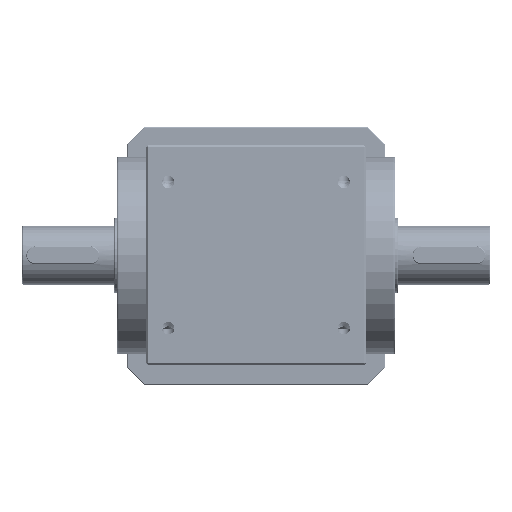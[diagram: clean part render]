
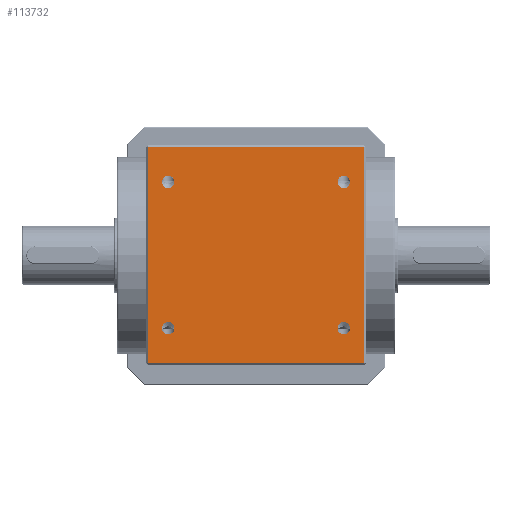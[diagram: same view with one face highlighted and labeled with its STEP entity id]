
A CAD part, top view. The second image highlights one B-rep face of the part: STEP entity #113732.
In plain terms, the highlighted planar face has unit normal (0, 0, 1) as drawn and (0, 1, 0) by its records, which use the part's own axes.
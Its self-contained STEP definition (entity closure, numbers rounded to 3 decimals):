
#1501 = VERTEX_POINT ( 'NONE', #2377 ) ;
#2255 = CARTESIAN_POINT ( 'NONE',  ( -74., 75., -74. ) ) ;
#2377 = CARTESIAN_POINT ( 'NONE',  ( -60., 75., 45.75 ) ) ;
#3775 = CARTESIAN_POINT ( 'NONE',  ( 60., 75., 50. ) ) ;
#5057 = DIRECTION ( 'NONE',  ( 0., 0., 1. ) ) ;
#6084 = ORIENTED_EDGE ( 'NONE', *, *, #39940, .T. ) ;
#8052 = DIRECTION ( 'NONE',  ( 0., 1., 0. ) ) ;
#8500 = FACE_BOUND ( 'NONE', #34763, .T. ) ;
#9700 = FACE_BOUND ( 'NONE', #25935, .T. ) ;
#9795 = CIRCLE ( 'NONE', #33399, 4.25 ) ;
#11109 = ORIENTED_EDGE ( 'NONE', *, *, #131161, .F. ) ;
#14368 = ORIENTED_EDGE ( 'NONE', *, *, #50239, .F. ) ;
#15268 = DIRECTION ( 'NONE',  ( 0., 0., 1. ) ) ;
#17105 = VERTEX_POINT ( 'NONE', #77557 ) ;
#19050 = ORIENTED_EDGE ( 'NONE', *, *, #94862, .F. ) ;
#19679 = EDGE_CURVE ( 'NONE', #142303, #120633, #43087, .T. ) ;
#21796 = CARTESIAN_POINT ( 'NONE',  ( -75., 75., 75. ) ) ;
#25056 = DIRECTION ( 'NONE',  ( 0., 1., 0. ) ) ;
#25935 = EDGE_LOOP ( 'NONE', ( #68374, #63162 ) ) ;
#26260 = CARTESIAN_POINT ( 'NONE',  ( -60., 75., -54.25 ) ) ;
#26759 = LINE ( 'NONE', #117785, #27879 ) ;
#26783 = AXIS2_PLACEMENT_3D ( 'NONE', #120196, #51986, #131593 ) ;
#27879 = VECTOR ( 'NONE', #140049, 1000. ) ;
#28794 = CARTESIAN_POINT ( 'NONE',  ( -74., 75., 75. ) ) ;
#30606 = DIRECTION ( 'NONE',  ( 0., 0., 1. ) ) ;
#31361 = VERTEX_POINT ( 'NONE', #53534 ) ;
#31421 = VERTEX_POINT ( 'NONE', #48814 ) ;
#32365 = EDGE_CURVE ( 'NONE', #120633, #142303, #110397, .T. ) ;
#32884 = VERTEX_POINT ( 'NONE', #81763 ) ;
#33346 = DIRECTION ( 'NONE',  ( 0., 0., -1. ) ) ;
#33399 = AXIS2_PLACEMENT_3D ( 'NONE', #76577, #8052, #88045 ) ;
#34763 = EDGE_LOOP ( 'NONE', ( #145078, #63939 ) ) ;
#35171 = DIRECTION ( 'NONE',  ( 0., 1., 0. ) ) ;
#35538 = AXIS2_PLACEMENT_3D ( 'NONE', #3775, #83758, #15268 ) ;
#37866 = CARTESIAN_POINT ( 'NONE',  ( -60., 75., 54.25 ) ) ;
#39940 = EDGE_CURVE ( 'NONE', #31421, #32884, #26759, .T. ) ;
#40318 = DIRECTION ( 'NONE',  ( 0., 0., -1. ) ) ;
#40502 = CIRCLE ( 'NONE', #74778, 4.25 ) ;
#43087 = CIRCLE ( 'NONE', #113484, 4.25 ) ;
#48814 = CARTESIAN_POINT ( 'NONE',  ( -74., 75., 74. ) ) ;
#50239 = EDGE_CURVE ( 'NONE', #1501, #84170, #40502, .T. ) ;
#51614 = EDGE_CURVE ( 'NONE', #147520, #17105, #140746, .T. ) ;
#51936 = VERTEX_POINT ( 'NONE', #127990 ) ;
#51986 = DIRECTION ( 'NONE',  ( 0., 1., 0. ) ) ;
#53534 = CARTESIAN_POINT ( 'NONE',  ( 60., 75., 45.75 ) ) ;
#54873 = FACE_BOUND ( 'NONE', #144639, .T. ) ;
#55228 = AXIS2_PLACEMENT_3D ( 'NONE', #21796, #101709, #33346 ) ;
#58579 = CIRCLE ( 'NONE', #85446, 4.25 ) ;
#61818 = FACE_OUTER_BOUND ( 'NONE', #89624, .T. ) ;
#62496 = CARTESIAN_POINT ( 'NONE',  ( -75., 75., -74. ) ) ;
#63162 = ORIENTED_EDGE ( 'NONE', *, *, #51614, .F. ) ;
#63939 = ORIENTED_EDGE ( 'NONE', *, *, #142053, .F. ) ;
#66426 = LINE ( 'NONE', #28794, #123256 ) ;
#67152 = EDGE_CURVE ( 'NONE', #51936, #32884, #84389, .T. ) ;
#67821 = CARTESIAN_POINT ( 'NONE',  ( 60., 75., -54.25 ) ) ;
#68374 = ORIENTED_EDGE ( 'NONE', *, *, #107401, .F. ) ;
#70330 = VERTEX_POINT ( 'NONE', #2255 ) ;
#73568 = DIRECTION ( 'NONE',  ( 0., 1., 0. ) ) ;
#73962 = DIRECTION ( 'NONE',  ( 1., 0., 0. ) ) ;
#74778 = AXIS2_PLACEMENT_3D ( 'NONE', #103515, #35171, #114928 ) ;
#76577 = CARTESIAN_POINT ( 'NONE',  ( -60., 75., 50. ) ) ;
#77557 = CARTESIAN_POINT ( 'NONE',  ( 60., 75., -45.75 ) ) ;
#78403 = CIRCLE ( 'NONE', #35538, 4.25 ) ;
#81763 = CARTESIAN_POINT ( 'NONE',  ( 74., 75., 74. ) ) ;
#83383 = VECTOR ( 'NONE', #30606, 1000. ) ;
#83758 = DIRECTION ( 'NONE',  ( 0., 1., 0. ) ) ;
#84170 = VERTEX_POINT ( 'NONE', #37866 ) ;
#84389 = LINE ( 'NONE', #87563, #83383 ) ;
#85446 = AXIS2_PLACEMENT_3D ( 'NONE', #93530, #25056, #104950 ) ;
#85905 = ORIENTED_EDGE ( 'NONE', *, *, #95836, .F. ) ;
#87563 = CARTESIAN_POINT ( 'NONE',  ( 74., 75., 75. ) ) ;
#88045 = DIRECTION ( 'NONE',  ( 0., 0., 1. ) ) ;
#88682 = CARTESIAN_POINT ( 'NONE',  ( -60., 75., -45.75 ) ) ;
#89624 = EDGE_LOOP ( 'NONE', ( #11109, #6084, #132573, #85905 ) ) ;
#93530 = CARTESIAN_POINT ( 'NONE',  ( 60., 75., -50. ) ) ;
#94862 = EDGE_CURVE ( 'NONE', #84170, #1501, #9795, .T. ) ;
#95836 = EDGE_CURVE ( 'NONE', #70330, #51936, #122236, .T. ) ;
#101207 = EDGE_LOOP ( 'NONE', ( #19050, #14368 ) ) ;
#101709 = DIRECTION ( 'NONE',  ( 0., -1., 0. ) ) ;
#103260 = AXIS2_PLACEMENT_3D ( 'NONE', #137072, #136875, #136759 ) ;
#103515 = CARTESIAN_POINT ( 'NONE',  ( -60., 75., 50. ) ) ;
#104950 = DIRECTION ( 'NONE',  ( 0., 0., 1. ) ) ;
#104994 = FACE_BOUND ( 'NONE', #101207, .T. ) ;
#107401 = EDGE_CURVE ( 'NONE', #17105, #147520, #58579, .T. ) ;
#110311 = ORIENTED_EDGE ( 'NONE', *, *, #32365, .F. ) ;
#110397 = CIRCLE ( 'NONE', #103260, 4.25 ) ;
#110456 = CARTESIAN_POINT ( 'NONE',  ( 60., 75., 54.25 ) ) ;
#112646 = PLANE ( 'NONE',  #55228 ) ;
#113484 = AXIS2_PLACEMENT_3D ( 'NONE', #144258, #144086, #143955 ) ;
#113732 = ADVANCED_FACE ( 'NONE', ( #61818, #54873, #9700, #104994, #8500 ), #112646, .F. ) ;
#114928 = DIRECTION ( 'NONE',  ( 0., 0., 1. ) ) ;
#117785 = CARTESIAN_POINT ( 'NONE',  ( 0., 75., 74. ) ) ;
#120196 = CARTESIAN_POINT ( 'NONE',  ( 60., 75., -50. ) ) ;
#120633 = VERTEX_POINT ( 'NONE', #26260 ) ;
#122236 = LINE ( 'NONE', #62496, #125681 ) ;
#122489 = ORIENTED_EDGE ( 'NONE', *, *, #19679, .F. ) ;
#123256 = VECTOR ( 'NONE', #40318, 1000. ) ;
#125681 = VECTOR ( 'NONE', #73962, 1000. ) ;
#127990 = CARTESIAN_POINT ( 'NONE',  ( 74., 75., -74. ) ) ;
#131161 = EDGE_CURVE ( 'NONE', #31421, #70330, #66426, .T. ) ;
#131593 = DIRECTION ( 'NONE',  ( 0., 0., 1. ) ) ;
#132573 = ORIENTED_EDGE ( 'NONE', *, *, #67152, .F. ) ;
#135818 = EDGE_CURVE ( 'NONE', #144791, #31361, #141130, .T. ) ;
#136759 = DIRECTION ( 'NONE',  ( 0., 0., 1. ) ) ;
#136875 = DIRECTION ( 'NONE',  ( 0., 1., 0. ) ) ;
#137072 = CARTESIAN_POINT ( 'NONE',  ( -60., 75., -50. ) ) ;
#139264 = AXIS2_PLACEMENT_3D ( 'NONE', #141587, #73568, #5057 ) ;
#140049 = DIRECTION ( 'NONE',  ( 1., 0., 0. ) ) ;
#140746 = CIRCLE ( 'NONE', #26783, 4.25 ) ;
#141130 = CIRCLE ( 'NONE', #139264, 4.25 ) ;
#141587 = CARTESIAN_POINT ( 'NONE',  ( 60., 75., 50. ) ) ;
#142053 = EDGE_CURVE ( 'NONE', #31361, #144791, #78403, .T. ) ;
#142303 = VERTEX_POINT ( 'NONE', #88682 ) ;
#143955 = DIRECTION ( 'NONE',  ( 0., 0., 1. ) ) ;
#144086 = DIRECTION ( 'NONE',  ( 0., 1., 0. ) ) ;
#144258 = CARTESIAN_POINT ( 'NONE',  ( -60., 75., -50. ) ) ;
#144639 = EDGE_LOOP ( 'NONE', ( #122489, #110311 ) ) ;
#144791 = VERTEX_POINT ( 'NONE', #110456 ) ;
#145078 = ORIENTED_EDGE ( 'NONE', *, *, #135818, .F. ) ;
#147520 = VERTEX_POINT ( 'NONE', #67821 ) ;
